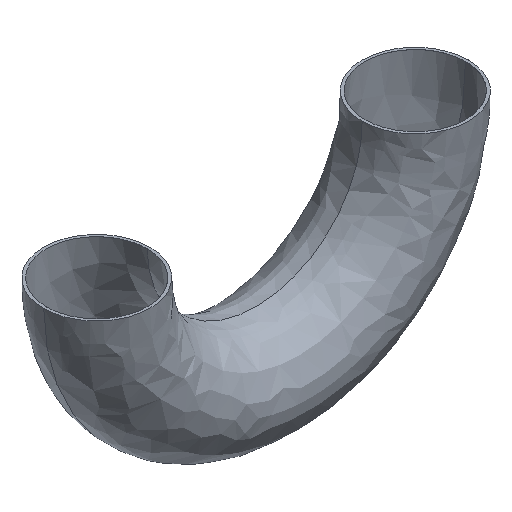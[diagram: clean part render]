
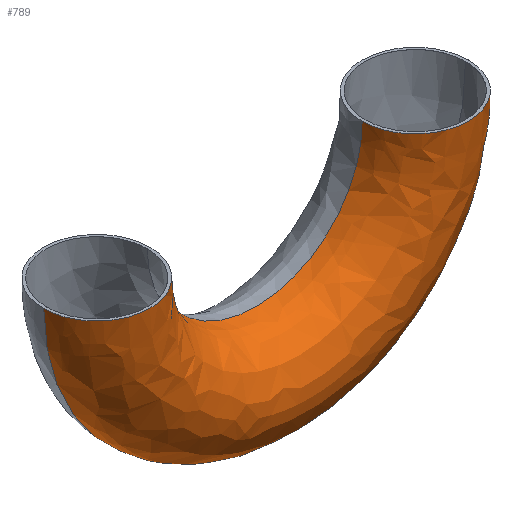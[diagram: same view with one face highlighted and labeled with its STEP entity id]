
A CAD part, isometric view. The second image highlights one B-rep face of the part: STEP entity #789.
In plain terms, the highlighted free-form (B-spline) face has degree [3, 3] with [4, 4] control points.
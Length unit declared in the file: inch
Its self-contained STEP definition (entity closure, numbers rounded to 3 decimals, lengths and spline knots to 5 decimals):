
#111 = VERTEX_POINT ( 'NONE', #1947 ) ;
#118 = CIRCLE ( 'NONE', #3793, 1.25 ) ;
#294 = CARTESIAN_POINT ( 'NONE',  ( 1.25, 0., 0. ) ) ;
#317 = CARTESIAN_POINT ( 'NONE',  ( 1.31713, 0., -9.9997 ) ) ;
#338 = CARTESIAN_POINT ( 'NONE',  ( -8.68257, 0., -10.06683 ) ) ;
#357 = CARTESIAN_POINT ( 'NONE',  ( -8.7497, 0., -0.06713 ) ) ;
#372 = VERTEX_POINT ( 'NONE', #5062 ) ;
#668 = CARTESIAN_POINT ( 'NONE',  ( -3.74985, 0., -0.03357 ) ) ;
#722 = CARTESIAN_POINT ( 'NONE',  ( 1.25, -2.5, 0. ) ) ;
#760 = CARTESIAN_POINT ( 'NONE',  ( 1.31713, -2.5, -9.9997 ) ) ;
#781 = CARTESIAN_POINT ( 'NONE',  ( -8.68257, -2.5, -10.06683 ) ) ;
#789 = ADVANCED_FACE ( 'NONE', ( #2680 ), #2968, .T. ) ;
#801 = CARTESIAN_POINT ( 'NONE',  ( -8.7497, -2.5, -0.06713 ) ) ;
#1050 = CARTESIAN_POINT ( 'NONE',  ( -7.4997, 0., -0.06713 ) ) ;
#1120 = DIRECTION ( 'NONE',  ( -1., 0., -0.007 ) ) ;
#1137 = CARTESIAN_POINT ( 'NONE',  ( -8.7497, 0., -0.06713 ) ) ;
#1159 = CARTESIAN_POINT ( 'NONE',  ( -1.25, -2.5, 0. ) ) ;
#1172 = DIRECTION ( 'NONE',  ( 0., 0., 1. ) ) ;
#1177 = CARTESIAN_POINT ( 'NONE',  ( -1.18287, -2.5, -4.9997 ) ) ;
#1196 = CARTESIAN_POINT ( 'NONE',  ( -6.18257, -2.5, -5.06683 ) ) ;
#1215 = CARTESIAN_POINT ( 'NONE',  ( -6.2497, -2.5, -0.06713 ) ) ;
#1216 = AXIS2_PLACEMENT_3D ( 'NONE', #1050, #4218, #1521 ) ;
#1237 = CARTESIAN_POINT ( 'NONE',  ( -1.25, 0., 0. ) ) ;
#1251 = ORIENTED_EDGE ( 'NONE', *, *, #1770, .T. ) ;
#1259 = CARTESIAN_POINT ( 'NONE',  ( -1.18287, 0., -4.9997 ) ) ;
#1301 = ORIENTED_EDGE ( 'NONE', *, *, #4027, .F. ) ;
#1323 = CIRCLE ( 'NONE', #4318, 4.99996 ) ;
#1418 = ORIENTED_EDGE ( 'NONE', *, *, #1983, .F. ) ;
#1521 = DIRECTION ( 'NONE',  ( -1., 0., 0. ) ) ;
#1648 = CARTESIAN_POINT ( 'NONE',  ( -6.2497, 0., -0.06713 ) ) ;
#1669 = CARTESIAN_POINT ( 'NONE',  ( -6.18257, 0., -5.06683 ) ) ;
#1743 = CARTESIAN_POINT ( 'NONE',  ( -3.74985, 0., -0.03357 ) ) ;
#1770 = EDGE_CURVE ( 'NONE', #3385, #372, #1323, .T. ) ;
#1947 = CARTESIAN_POINT ( 'NONE',  ( -1.25, 0., 0. ) ) ;
#1983 = EDGE_CURVE ( 'NONE', #111, #372, #118, .T. ) ;
#2200 = DIRECTION ( 'NONE',  ( -1., 0., -0.013 ) ) ;
#2631 = AXIS2_PLACEMENT_3D ( 'NONE', #1743, #4873, #2200 ) ;
#2680 = FACE_OUTER_BOUND ( 'NONE', #2768, .T. ) ;
#2768 = EDGE_LOOP ( 'NONE', ( #1301, #3742, #1251, #1418 ) ) ;
#2968 =( BOUNDED_SURFACE ( )  B_SPLINE_SURFACE ( 3, 3, ( 
 ( #1648, #1669, #1259, #1237 ),
 ( #1215, #1196, #1177, #1159 ),
 ( #801, #781, #760, #722 ),
 ( #357, #338, #317, #294 ) ),
 .UNSPECIFIED., .F., .F., .F. ) 
 B_SPLINE_SURFACE_WITH_KNOTS ( ( 4, 4 ),
 ( 4, 4 ),
 ( 0., 1. ),
 ( 0., 1. ),
 .UNSPECIFIED. ) 
 GEOMETRIC_REPRESENTATION_ITEM ( )  RATIONAL_B_SPLINE_SURFACE ( (
 ( 1., 0.333, 0.333, 1.),
 ( 0.333, 0.111, 0.111, 0.333),
 ( 0.333, 0.111, 0.111, 0.333),
 ( 1., 0.333, 0.333, 1.) ) ) 
 REPRESENTATION_ITEM ( '' )  SURFACE ( )  );
#3300 = CARTESIAN_POINT ( 'NONE',  ( -6.2497, 0., -0.06713 ) ) ;
#3385 = VERTEX_POINT ( 'NONE', #1137 ) ;
#3742 = ORIENTED_EDGE ( 'NONE', *, *, #5190, .T. ) ;
#3793 = AXIS2_PLACEMENT_3D ( 'NONE', #3896, #1172, #4333 ) ;
#3847 = DIRECTION ( 'NONE',  ( 0., -1., 0. ) ) ;
#3896 = CARTESIAN_POINT ( 'NONE',  ( 0., 0., 0. ) ) ;
#3948 = CIRCLE ( 'NONE', #2631, 2.50008 ) ;
#4027 = EDGE_CURVE ( 'NONE', #4900, #111, #3948, .T. ) ;
#4218 = DIRECTION ( 'NONE',  ( 0., 0., -1. ) ) ;
#4318 = AXIS2_PLACEMENT_3D ( 'NONE', #668, #3847, #1120 ) ;
#4333 = DIRECTION ( 'NONE',  ( 1., 0., 0. ) ) ;
#4873 = DIRECTION ( 'NONE',  ( 0., -1., 0. ) ) ;
#4900 = VERTEX_POINT ( 'NONE', #3300 ) ;
#5062 = CARTESIAN_POINT ( 'NONE',  ( 1.25, 0., 0. ) ) ;
#5190 = EDGE_CURVE ( 'NONE', #4900, #3385, #5273, .T. ) ;
#5273 = CIRCLE ( 'NONE', #1216, 1.25 ) ;
